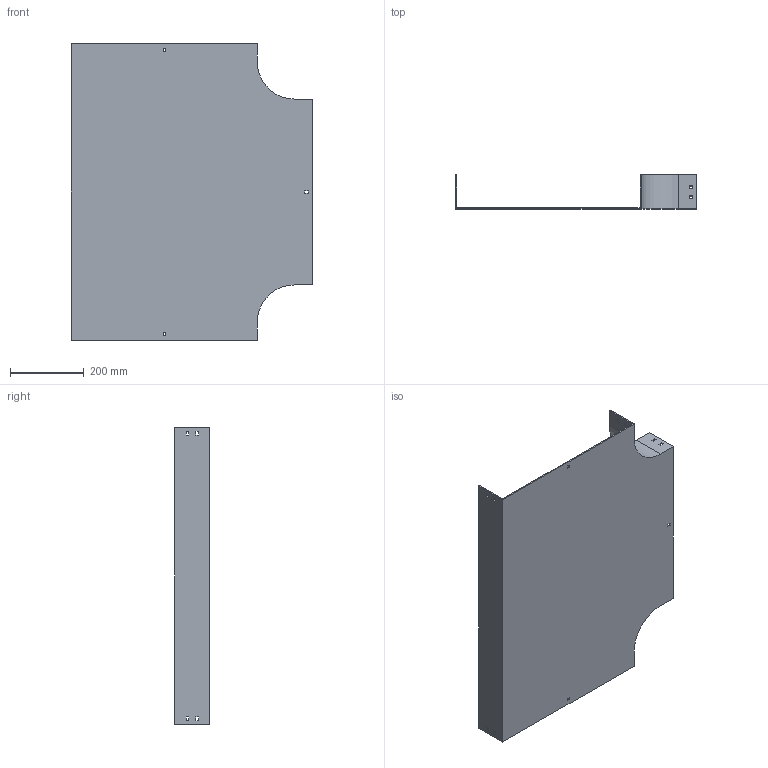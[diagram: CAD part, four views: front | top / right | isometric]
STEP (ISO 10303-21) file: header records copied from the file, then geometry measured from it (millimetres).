
FILE_DESCRIPTION (( 'STEP AP214' ), '1' );
FILE_NAME ('15B1I500.step', '2025-02-21T09:55:57', ( '' ), ( '' ), 'SwSTEP 2.0', 'SolidWorks 2023', '' );
FILE_SCHEMA (( 'AUTOMOTIVE_DESIGN' ));
Length unit declared in the file: millimetre
Products named in the file (1): 15B1I500
Bounding box: 654 x 92.5 x 804 mm (x, y, z)
Volume: 2106643.1 mm3; surface area: 1217324.1 mm2
Topology: 1 solids, 1 shells, 82 faces, 240 edges, 160 vertices
Faces by surface type: plane 78, cylinder 4
Entity records: 2755 total; most frequent: CARTESIAN_POINT 483, ORIENTED_EDGE 480, DIRECTION 414, EDGE_CURVE 240, LINE 232, VECTOR 232, VERTEX_POINT 160, EDGE_LOOP 112
